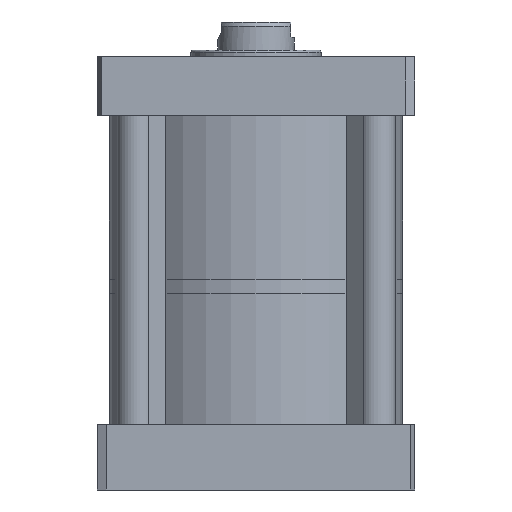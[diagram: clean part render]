
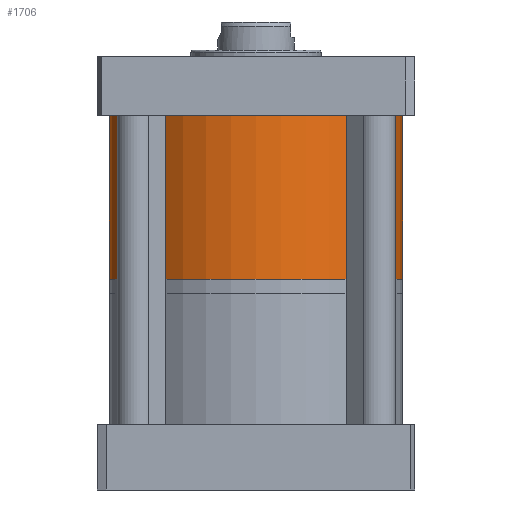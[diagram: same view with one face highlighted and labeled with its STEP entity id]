
A CAD part, front view. The second image highlights one B-rep face of the part: STEP entity #1706.
In plain terms, the highlighted cylindrical face has radius 67.5 mm (diameter 135 mm), a partial arc.
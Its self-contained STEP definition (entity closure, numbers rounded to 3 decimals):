
#278 = LINE ( 'NONE', #6309, #5020 ) ;
#691 = DIRECTION ( 'NONE',  ( 1., 0., 0. ) ) ;
#835 = CARTESIAN_POINT ( 'NONE',  ( 0., 0., -75.5 ) ) ;
#874 = ORIENTED_EDGE ( 'NONE', *, *, #3283, .T. ) ;
#1133 = DIRECTION ( 'NONE',  ( 0., 0., 1. ) ) ;
#1259 = ORIENTED_EDGE ( 'NONE', *, *, #4601, .F. ) ;
#1272 = VERTEX_POINT ( 'NONE', #3547 ) ;
#1479 = DIRECTION ( 'NONE',  ( -1., 0., 0. ) ) ;
#1706 = ADVANCED_FACE ( 'NONE', ( #3145 ), #2936, .T. ) ;
#1917 = CARTESIAN_POINT ( 'NONE',  ( -67.5, 0., -75.5 ) ) ;
#2120 = AXIS2_PLACEMENT_3D ( 'NONE', #4443, #4544, #691 ) ;
#2297 = DIRECTION ( 'NONE',  ( 0., 0., -1. ) ) ;
#2378 = AXIS2_PLACEMENT_3D ( 'NONE', #835, #5342, #1479 ) ;
#2383 = EDGE_CURVE ( 'NONE', #8223, #4402, #278, .T. ) ;
#2936 = CYLINDRICAL_SURFACE ( 'NONE', #2120, 67.5 ) ;
#3145 = FACE_OUTER_BOUND ( 'NONE', #6931, .T. ) ;
#3283 = EDGE_CURVE ( 'NONE', #4402, #5995, #5202, .T. ) ;
#3377 = VECTOR ( 'NONE', #8313, 1000. ) ;
#3547 = CARTESIAN_POINT ( 'NONE',  ( -67.5, 0., -75.5 ) ) ;
#4402 = VERTEX_POINT ( 'NONE', #6355 ) ;
#4443 = CARTESIAN_POINT ( 'NONE',  ( 0., 0., -75.5 ) ) ;
#4544 = DIRECTION ( 'NONE',  ( 0., 0., 1. ) ) ;
#4563 = ORIENTED_EDGE ( 'NONE', *, *, #2383, .T. ) ;
#4601 = EDGE_CURVE ( 'NONE', #8223, #1272, #8160, .T. ) ;
#5020 = VECTOR ( 'NONE', #1133, 1000. ) ;
#5202 = CIRCLE ( 'NONE', #7452, 67.5 ) ;
#5342 = DIRECTION ( 'NONE',  ( 0., 0., -1. ) ) ;
#5728 = CARTESIAN_POINT ( 'NONE',  ( 67.5, 0., -75.5 ) ) ;
#5826 = LINE ( 'NONE', #1917, #3377 ) ;
#5995 = VERTEX_POINT ( 'NONE', #8119 ) ;
#6151 = CARTESIAN_POINT ( 'NONE',  ( 0., 0., 0. ) ) ;
#6309 = CARTESIAN_POINT ( 'NONE',  ( 67.5, 0., -75.5 ) ) ;
#6355 = CARTESIAN_POINT ( 'NONE',  ( 67.5, 0., 0. ) ) ;
#6469 = EDGE_CURVE ( 'NONE', #1272, #5995, #5826, .T. ) ;
#6799 = DIRECTION ( 'NONE',  ( 1., 0., 0. ) ) ;
#6931 = EDGE_LOOP ( 'NONE', ( #7102, #1259, #4563, #874 ) ) ;
#7102 = ORIENTED_EDGE ( 'NONE', *, *, #6469, .F. ) ;
#7452 = AXIS2_PLACEMENT_3D ( 'NONE', #6151, #2297, #6799 ) ;
#8119 = CARTESIAN_POINT ( 'NONE',  ( -67.5, 0., 0. ) ) ;
#8160 = CIRCLE ( 'NONE', #2378, 67.5 ) ;
#8223 = VERTEX_POINT ( 'NONE', #5728 ) ;
#8313 = DIRECTION ( 'NONE',  ( 0., 0., 1. ) ) ;
